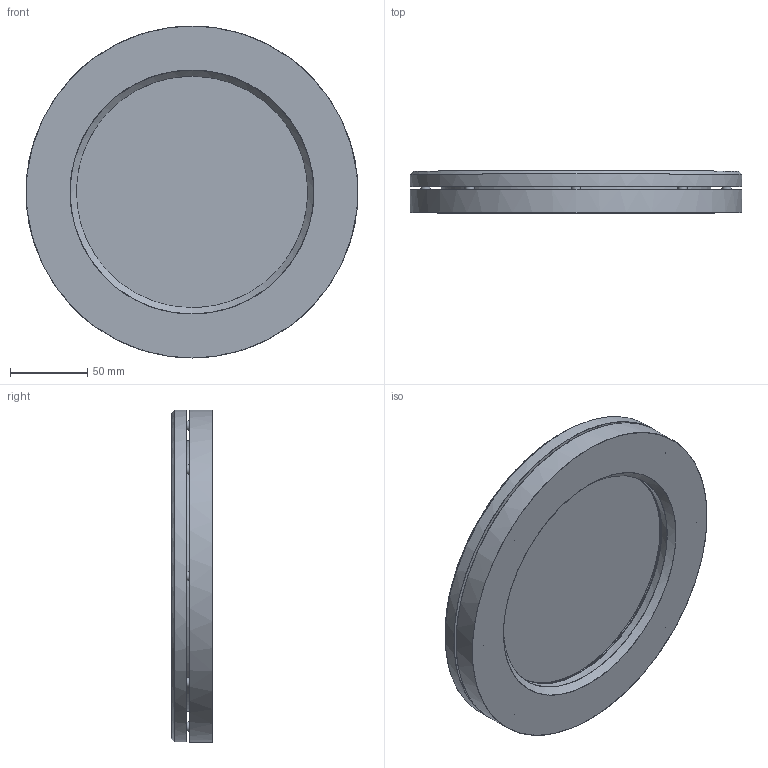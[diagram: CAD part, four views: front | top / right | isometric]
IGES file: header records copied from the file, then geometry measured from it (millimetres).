
Start section: C
Global section: file name: Armatur 28120 drucklos DN 125.igs; native system: By Siemens PLM Incorporated; preprocessor: XPlus GENERIC/IGES 18.0.17; author: Author; organization: Title; date: 20160120.075311; units: millimetre
Bounding box: 214.69 x 27 x 215 mm (x, y, z)
Surface area: 192874.9 mm2 (no closed solid volume)
Topology: 0 solids, 0 shells, 332 faces, 1796 edges, 1788 vertices
Faces by surface type: bspline 332
